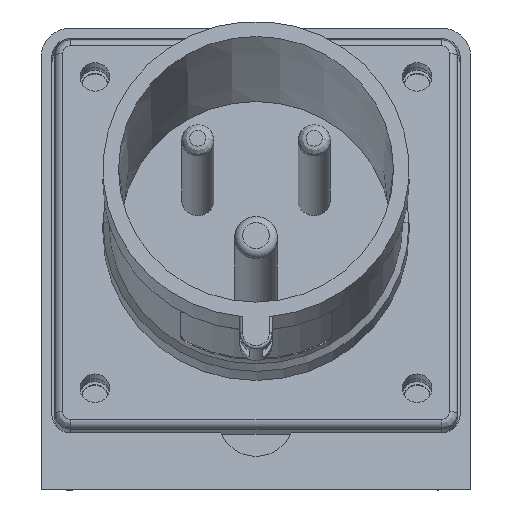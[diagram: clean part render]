
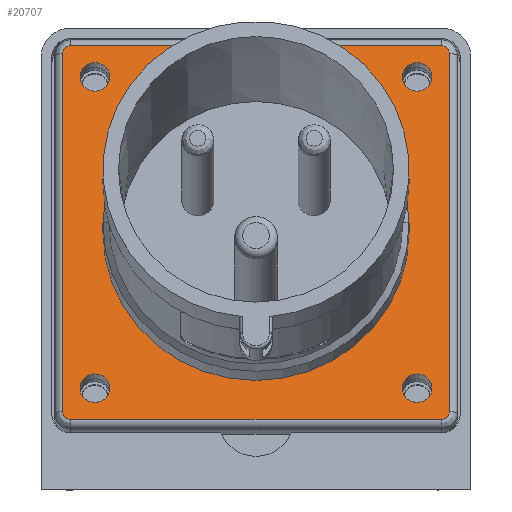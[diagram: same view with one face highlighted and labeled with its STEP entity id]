
A CAD part, front view. The second image highlights one B-rep face of the part: STEP entity #20707.
In plain terms, the highlighted planar face has unit normal (0, -0.966, 0.259).
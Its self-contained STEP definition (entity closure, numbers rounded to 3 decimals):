
#20707 = ADVANCED_FACE('',(#20708,#20778,#20798,#20818,#20838,#20858),
  #20878,.T.);
#20708 = FACE_BOUND('',#20709,.T.);
#20709 = EDGE_LOOP('',(#20710,#20720,#20729,#20737,#20746,#20754,#20763,
    #20771));
#20710 = ORIENTED_EDGE('',*,*,#20711,.T.);
#20711 = EDGE_CURVE('',#20712,#20714,#20716,.T.);
#20712 = VERTEX_POINT('',#20713);
#20713 = CARTESIAN_POINT('',(-36.,-29.86,81.25));
#20714 = VERTEX_POINT('',#20715);
#20715 = CARTESIAN_POINT('',(-36.,-47.719,14.601));
#20716 = LINE('',#20717,#20718);
#20717 = CARTESIAN_POINT('',(-36.,-29.86,81.25));
#20718 = VECTOR('',#20719,1.);
#20719 = DIRECTION('',(0.,-0.259,-0.966));
#20720 = ORIENTED_EDGE('',*,*,#20721,.T.);
#20721 = EDGE_CURVE('',#20714,#20722,#20724,.T.);
#20722 = VERTEX_POINT('',#20723);
#20723 = CARTESIAN_POINT('',(-34.5,-48.107,13.152));
#20724 = CIRCLE('',#20725,1.5);
#20725 = AXIS2_PLACEMENT_3D('',#20726,#20727,#20728);
#20726 = CARTESIAN_POINT('',(-34.5,-47.719,14.601));
#20727 = DIRECTION('',(0.,-0.966,0.259));
#20728 = DIRECTION('',(-1.,0.,0.));
#20729 = ORIENTED_EDGE('',*,*,#20730,.T.);
#20730 = EDGE_CURVE('',#20722,#20731,#20733,.T.);
#20731 = VERTEX_POINT('',#20732);
#20732 = CARTESIAN_POINT('',(34.5,-48.107,13.152));
#20733 = LINE('',#20734,#20735);
#20734 = CARTESIAN_POINT('',(-34.5,-48.107,13.152));
#20735 = VECTOR('',#20736,1.);
#20736 = DIRECTION('',(1.,0.,0.));
#20737 = ORIENTED_EDGE('',*,*,#20738,.T.);
#20738 = EDGE_CURVE('',#20731,#20739,#20741,.T.);
#20739 = VERTEX_POINT('',#20740);
#20740 = CARTESIAN_POINT('',(36.,-47.719,14.601));
#20741 = CIRCLE('',#20742,1.5);
#20742 = AXIS2_PLACEMENT_3D('',#20743,#20744,#20745);
#20743 = CARTESIAN_POINT('',(34.5,-47.719,14.601));
#20744 = DIRECTION('',(0.,-0.966,0.259));
#20745 = DIRECTION('',(0.,-0.259,-0.966));
#20746 = ORIENTED_EDGE('',*,*,#20747,.T.);
#20747 = EDGE_CURVE('',#20739,#20748,#20750,.T.);
#20748 = VERTEX_POINT('',#20749);
#20749 = CARTESIAN_POINT('',(36.,-29.86,81.25));
#20750 = LINE('',#20751,#20752);
#20751 = CARTESIAN_POINT('',(36.,-47.719,14.601));
#20752 = VECTOR('',#20753,1.);
#20753 = DIRECTION('',(0.,0.259,0.966));
#20754 = ORIENTED_EDGE('',*,*,#20755,.T.);
#20755 = EDGE_CURVE('',#20748,#20756,#20758,.T.);
#20756 = VERTEX_POINT('',#20757);
#20757 = CARTESIAN_POINT('',(34.5,-29.472,82.699));
#20758 = CIRCLE('',#20759,1.5);
#20759 = AXIS2_PLACEMENT_3D('',#20760,#20761,#20762);
#20760 = CARTESIAN_POINT('',(34.5,-29.86,81.25));
#20761 = DIRECTION('',(0.,-0.966,0.259));
#20762 = DIRECTION('',(1.,0.,0.));
#20763 = ORIENTED_EDGE('',*,*,#20764,.T.);
#20764 = EDGE_CURVE('',#20756,#20765,#20767,.T.);
#20765 = VERTEX_POINT('',#20766);
#20766 = CARTESIAN_POINT('',(-34.5,-29.472,82.699));
#20767 = LINE('',#20768,#20769);
#20768 = CARTESIAN_POINT('',(34.5,-29.472,82.699));
#20769 = VECTOR('',#20770,1.);
#20770 = DIRECTION('',(-1.,0.,0.));
#20771 = ORIENTED_EDGE('',*,*,#20772,.T.);
#20772 = EDGE_CURVE('',#20765,#20712,#20773,.T.);
#20773 = CIRCLE('',#20774,1.5);
#20774 = AXIS2_PLACEMENT_3D('',#20775,#20776,#20777);
#20775 = CARTESIAN_POINT('',(-34.5,-29.86,81.25));
#20776 = DIRECTION('',(0.,-0.966,0.259));
#20777 = DIRECTION('',(0.,0.259,0.966));
#20778 = FACE_BOUND('',#20779,.T.);
#20779 = EDGE_LOOP('',(#20780,#20791));
#20780 = ORIENTED_EDGE('',*,*,#20781,.F.);
#20781 = EDGE_CURVE('',#20782,#20784,#20786,.T.);
#20782 = VERTEX_POINT('',#20783);
#20783 = CARTESIAN_POINT('',(27.25,-31.025,76.903));
#20784 = VERTEX_POINT('',#20785);
#20785 = CARTESIAN_POINT('',(32.75,-31.025,76.903));
#20786 = CIRCLE('',#20787,2.75);
#20787 = AXIS2_PLACEMENT_3D('',#20788,#20789,#20790);
#20788 = CARTESIAN_POINT('',(30.,-31.025,76.903));
#20789 = DIRECTION('',(0.,-0.966,0.259));
#20790 = DIRECTION('',(-1.,0.,0.));
#20791 = ORIENTED_EDGE('',*,*,#20792,.F.);
#20792 = EDGE_CURVE('',#20784,#20782,#20793,.T.);
#20793 = CIRCLE('',#20794,2.75);
#20794 = AXIS2_PLACEMENT_3D('',#20795,#20796,#20797);
#20795 = CARTESIAN_POINT('',(30.,-31.025,76.903));
#20796 = DIRECTION('',(0.,-0.966,0.259));
#20797 = DIRECTION('',(1.,0.,0.));
#20798 = FACE_BOUND('',#20799,.T.);
#20799 = EDGE_LOOP('',(#20800,#20811));
#20800 = ORIENTED_EDGE('',*,*,#20801,.F.);
#20801 = EDGE_CURVE('',#20802,#20804,#20806,.T.);
#20802 = VERTEX_POINT('',#20803);
#20803 = CARTESIAN_POINT('',(-32.75,-31.025,76.903));
#20804 = VERTEX_POINT('',#20805);
#20805 = CARTESIAN_POINT('',(-27.25,-31.025,76.903));
#20806 = CIRCLE('',#20807,2.75);
#20807 = AXIS2_PLACEMENT_3D('',#20808,#20809,#20810);
#20808 = CARTESIAN_POINT('',(-30.,-31.025,76.903));
#20809 = DIRECTION('',(0.,-0.966,0.259));
#20810 = DIRECTION('',(-1.,0.,0.));
#20811 = ORIENTED_EDGE('',*,*,#20812,.F.);
#20812 = EDGE_CURVE('',#20804,#20802,#20813,.T.);
#20813 = CIRCLE('',#20814,2.75);
#20814 = AXIS2_PLACEMENT_3D('',#20815,#20816,#20817);
#20815 = CARTESIAN_POINT('',(-30.,-31.025,76.903));
#20816 = DIRECTION('',(0.,-0.966,0.259));
#20817 = DIRECTION('',(1.,0.,0.));
#20818 = FACE_BOUND('',#20819,.T.);
#20819 = EDGE_LOOP('',(#20820,#20831));
#20820 = ORIENTED_EDGE('',*,*,#20821,.F.);
#20821 = EDGE_CURVE('',#20822,#20824,#20826,.T.);
#20822 = VERTEX_POINT('',#20823);
#20823 = CARTESIAN_POINT('',(27.25,-46.554,18.948));
#20824 = VERTEX_POINT('',#20825);
#20825 = CARTESIAN_POINT('',(32.75,-46.554,18.948));
#20826 = CIRCLE('',#20827,2.75);
#20827 = AXIS2_PLACEMENT_3D('',#20828,#20829,#20830);
#20828 = CARTESIAN_POINT('',(30.,-46.554,18.948));
#20829 = DIRECTION('',(0.,-0.966,0.259));
#20830 = DIRECTION('',(-1.,0.,0.));
#20831 = ORIENTED_EDGE('',*,*,#20832,.F.);
#20832 = EDGE_CURVE('',#20824,#20822,#20833,.T.);
#20833 = CIRCLE('',#20834,2.75);
#20834 = AXIS2_PLACEMENT_3D('',#20835,#20836,#20837);
#20835 = CARTESIAN_POINT('',(30.,-46.554,18.948));
#20836 = DIRECTION('',(0.,-0.966,0.259));
#20837 = DIRECTION('',(1.,0.,0.));
#20838 = FACE_BOUND('',#20839,.T.);
#20839 = EDGE_LOOP('',(#20840,#20851));
#20840 = ORIENTED_EDGE('',*,*,#20841,.F.);
#20841 = EDGE_CURVE('',#20842,#20844,#20846,.T.);
#20842 = VERTEX_POINT('',#20843);
#20843 = CARTESIAN_POINT('',(-32.75,-46.554,18.948));
#20844 = VERTEX_POINT('',#20845);
#20845 = CARTESIAN_POINT('',(-27.25,-46.554,18.948));
#20846 = CIRCLE('',#20847,2.75);
#20847 = AXIS2_PLACEMENT_3D('',#20848,#20849,#20850);
#20848 = CARTESIAN_POINT('',(-30.,-46.554,18.948));
#20849 = DIRECTION('',(0.,-0.966,0.259));
#20850 = DIRECTION('',(-1.,0.,0.));
#20851 = ORIENTED_EDGE('',*,*,#20852,.F.);
#20852 = EDGE_CURVE('',#20844,#20842,#20853,.T.);
#20853 = CIRCLE('',#20854,2.75);
#20854 = AXIS2_PLACEMENT_3D('',#20855,#20856,#20857);
#20855 = CARTESIAN_POINT('',(-30.,-46.554,18.948));
#20856 = DIRECTION('',(0.,-0.966,0.259));
#20857 = DIRECTION('',(1.,0.,0.));
#20858 = FACE_BOUND('',#20859,.T.);
#20859 = EDGE_LOOP('',(#20860,#20871));
#20860 = ORIENTED_EDGE('',*,*,#20861,.F.);
#20861 = EDGE_CURVE('',#20862,#20864,#20866,.T.);
#20862 = VERTEX_POINT('',#20863);
#20863 = CARTESIAN_POINT('',(-28.5,-38.789,47.926));
#20864 = VERTEX_POINT('',#20865);
#20865 = CARTESIAN_POINT('',(28.5,-38.789,47.926));
#20866 = CIRCLE('',#20867,28.5);
#20867 = AXIS2_PLACEMENT_3D('',#20868,#20869,#20870);
#20868 = CARTESIAN_POINT('',(0.,-38.789,
    47.926));
#20869 = DIRECTION('',(0.,-0.966,0.259));
#20870 = DIRECTION('',(-1.,0.,0.));
#20871 = ORIENTED_EDGE('',*,*,#20872,.F.);
#20872 = EDGE_CURVE('',#20864,#20862,#20873,.T.);
#20873 = CIRCLE('',#20874,28.5);
#20874 = AXIS2_PLACEMENT_3D('',#20875,#20876,#20877);
#20875 = CARTESIAN_POINT('',(0.,-38.789,
    47.926));
#20876 = DIRECTION('',(0.,-0.966,0.259));
#20877 = DIRECTION('',(1.,0.,0.));
#20878 = PLANE('',#20879);
#20879 = AXIS2_PLACEMENT_3D('',#20880,#20881,#20882);
#20880 = CARTESIAN_POINT('',(0.,-38.789,
    47.926));
#20881 = DIRECTION('',(0.,-0.966,0.259));
#20882 = DIRECTION('',(-1.,0.,0.));
